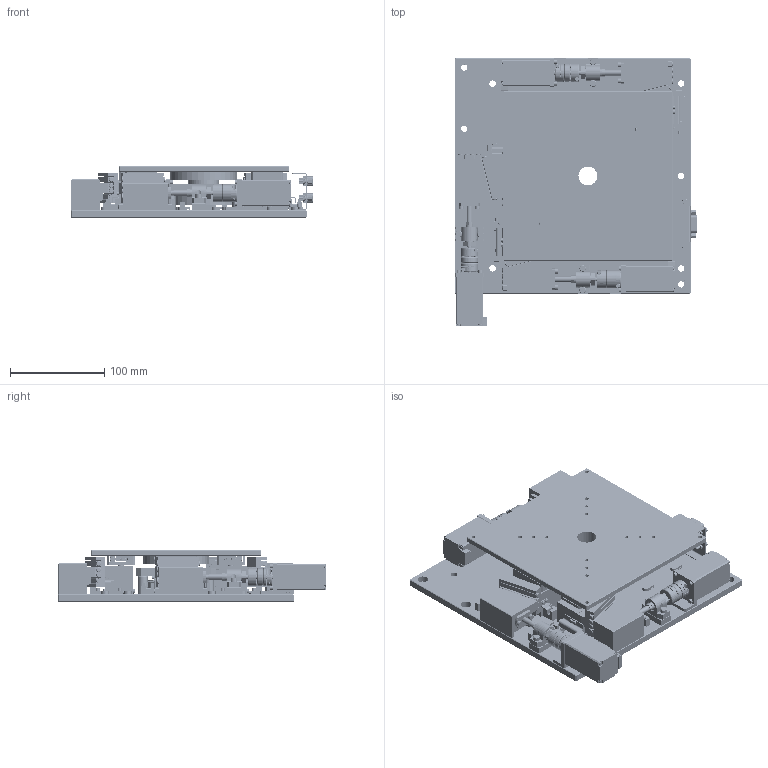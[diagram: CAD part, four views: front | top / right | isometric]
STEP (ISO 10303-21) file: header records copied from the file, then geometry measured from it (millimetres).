
FILE_DESCRIPTION (( 'STEP AP203' ), '1' );
FILE_NAME ('NAFHW3C-16(Step)_HP—p.STEP', '2023-09-11T06:59:43', ( '' ), ( '' ), 'SwSTEP 2.0', 'SolidWorks 2023', '' );
FILE_SCHEMA (( 'CONFIG_CONTROL_DESIGN' ));
Length unit declared in the file: millimetre
Products named in the file (1): NAFHW3C-16(Step)_HP用
Bounding box: 257 x 284 x 54.97 mm (x, y, z)
Surface area: 396987.1 mm2 (no closed solid volume)
Topology: 0 solids, 14 shells, 4851 faces, 12134 edges, 7618 vertices
Faces by surface type: plane 2795, cylinder 1298, cone 412, torus 292, bspline 54
Entity records: 147210 total; most frequent: CARTESIAN_POINT 28927, DIRECTION 25298, ORIENTED_EDGE 24256, EDGE_CURVE 12134, AXIS2_PLACEMENT_3D 8935, VERTEX_POINT 7618, VECTOR 7428, LINE 7428
